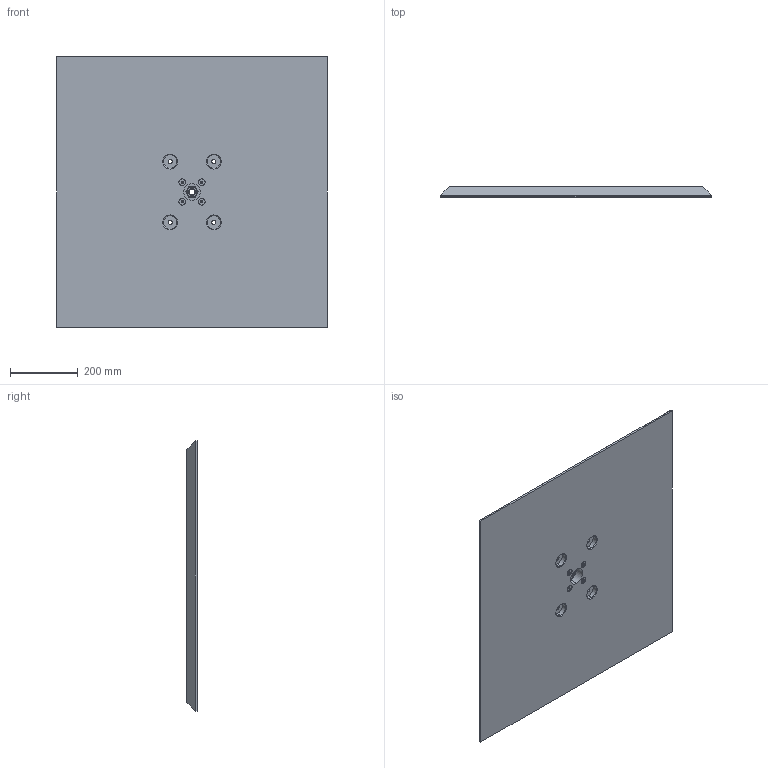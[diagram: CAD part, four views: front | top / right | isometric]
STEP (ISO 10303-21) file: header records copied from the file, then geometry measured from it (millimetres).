
FILE_DESCRIPTION (( 'STEP AP203' ), '1' );
FILE_NAME ('SEEBURG_Baseplate_XL.STEP', '2014-04-04T07:22:06', ( 'Michael Anter' ), ( 'SEEBURG acoustic line GmbH' ), 'SwSTEP 2.0', 'SolidWorks 2009', '' );
FILE_SCHEMA (( 'CONFIG_CONTROL_DESIGN' ));
Length unit declared in the file: millimetre
Products named in the file (7): SEEBURG_Baseplate_XL; GL16_Bodenplatte_groß; M20-Flansch-komplett; M20-Flansch-Basisplatte; Hex Thin Nut Chamfered GradeAB_DIN_Hexagon Thin Nut ISO 4035 - M20 - S; bead1; Socket Countersunk Head Screw_DIN_DIN 7991 - M6 x 25 --- 25S
Assembly tree (9 placements, depth 3):
  SEEBURG_Baseplate_XL
    Socket Countersunk Head Screw_DIN_DIN 7991 - M6 x 25 --- 25S  x4
    M20-Flansch-komplett
      M20-Flansch-Basisplatte
      bead1
      Hex Thin Nut Chamfered GradeAB_DIN_Hexagon Thin Nut ISO 4035 - M20 - S
    GL16_Bodenplatte_groß
Bounding box: 800 x 30 x 800 mm (x, y, z)
Volume: 18070513.2 mm3; surface area: 1361941.4 mm2
Topology: 8 solids, 8 shells, 758 faces, 1906 edges, 1168 vertices
Faces by surface type: cone 414, cylinder 232, plane 98, torus 8, bspline 6
Entity records: 10121 total; most frequent: CARTESIAN_POINT 1946, DIRECTION 1708, ORIENTED_EDGE 1456, EDGE_CURVE 728, AXIS2_PLACEMENT_3D 695, VERTEX_POINT 445, CIRCLE 386, EDGE_LOOP 343
